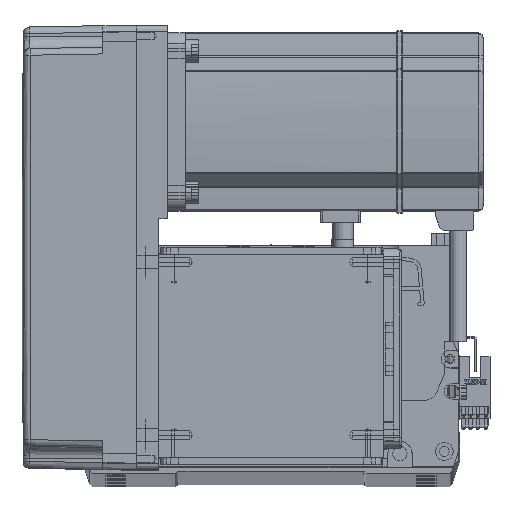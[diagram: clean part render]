
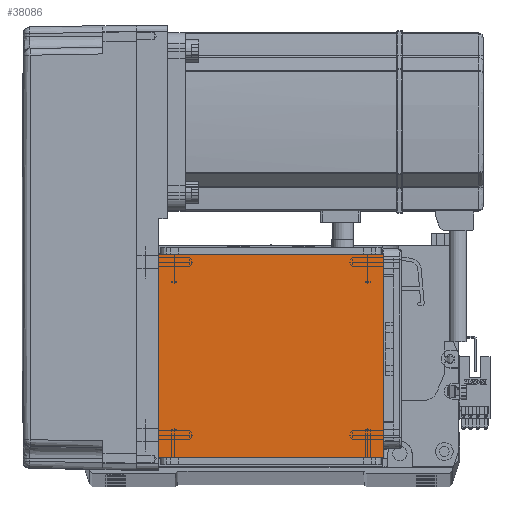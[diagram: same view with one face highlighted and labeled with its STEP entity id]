
A CAD part, top view. The second image highlights one B-rep face of the part: STEP entity #38086.
In plain terms, the highlighted planar face has unit normal (0, 0, 1).
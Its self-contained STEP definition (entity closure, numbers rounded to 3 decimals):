
#8172 = CARTESIAN_POINT ( 'NONE',  ( -70.004, 20., 115. ) ) ;
#8991 = VERTEX_POINT ( 'NONE', #64974 ) ;
#10131 = AXIS2_PLACEMENT_3D ( 'NONE', #19546, #50106, #45718 ) ;
#15520 = VECTOR ( 'NONE', #61861, 1000. ) ;
#17863 = VERTEX_POINT ( 'NONE', #31288 ) ;
#18031 = FACE_OUTER_BOUND ( 'NONE', #47330, .T. ) ;
#18893 = PLANE ( 'NONE',  #10131 ) ;
#19546 = CARTESIAN_POINT ( 'NONE',  ( 0., 0., 115. ) ) ;
#19591 = EDGE_CURVE ( 'NONE', #8991, #63115, #52807, .T. ) ;
#19805 = CARTESIAN_POINT ( 'NONE',  ( -50.5, 122., 115. ) ) ;
#20505 = CARTESIAN_POINT ( 'NONE',  ( -70.004, 111.5, 115. ) ) ;
#22566 = LINE ( 'NONE', #20505, #66575 ) ;
#27973 = ORIENTED_EDGE ( 'NONE', *, *, #38607, .F. ) ;
#29013 = EDGE_CURVE ( 'NONE', #8991, #17863, #22566, .T. ) ;
#29641 = DIRECTION ( 'NONE',  ( 0., -1., 0. ) ) ;
#31032 = DIRECTION ( 'NONE',  ( 0., 1., 0. ) ) ;
#31052 = VERTEX_POINT ( 'NONE', #48354 ) ;
#31288 = CARTESIAN_POINT ( 'NONE',  ( 50.5, 111.5, 115. ) ) ;
#31356 = VECTOR ( 'NONE', #31032, 1000. ) ;
#32604 = LINE ( 'NONE', #8172, #15520 ) ;
#36502 = ORIENTED_EDGE ( 'NONE', *, *, #29013, .F. ) ;
#38086 = ADVANCED_FACE ( 'NONE', ( #18031 ), #18893, .T. ) ;
#38607 = EDGE_CURVE ( 'NONE', #31052, #63115, #32604, .T. ) ;
#40531 = CARTESIAN_POINT ( 'NONE',  ( -50.5, 20., 115. ) ) ;
#45718 = DIRECTION ( 'NONE',  ( 1., 0., 0. ) ) ;
#46395 = EDGE_CURVE ( 'NONE', #31052, #17863, #59067, .T. ) ;
#47330 = EDGE_LOOP ( 'NONE', ( #36502, #62046, #27973, #60236 ) ) ;
#47393 = CARTESIAN_POINT ( 'NONE',  ( 50.5, 122., 115. ) ) ;
#48354 = CARTESIAN_POINT ( 'NONE',  ( 50.5, 20., 115. ) ) ;
#50106 = DIRECTION ( 'NONE',  ( 0., 0., 1. ) ) ;
#52807 = LINE ( 'NONE', #19805, #56099 ) ;
#56099 = VECTOR ( 'NONE', #29641, 1000. ) ;
#57413 = DIRECTION ( 'NONE',  ( 1., 0., 0. ) ) ;
#59067 = LINE ( 'NONE', #47393, #31356 ) ;
#60236 = ORIENTED_EDGE ( 'NONE', *, *, #46395, .T. ) ;
#61861 = DIRECTION ( 'NONE',  ( -1., 0., 0. ) ) ;
#62046 = ORIENTED_EDGE ( 'NONE', *, *, #19591, .T. ) ;
#63115 = VERTEX_POINT ( 'NONE', #40531 ) ;
#64974 = CARTESIAN_POINT ( 'NONE',  ( -50.5, 111.5, 115. ) ) ;
#66575 = VECTOR ( 'NONE', #57413, 1000. ) ;
